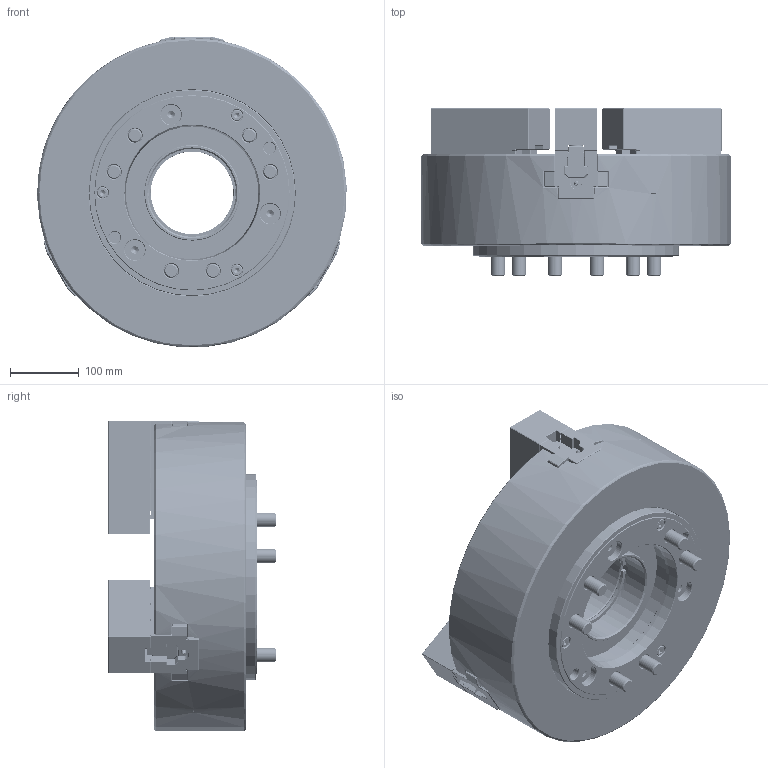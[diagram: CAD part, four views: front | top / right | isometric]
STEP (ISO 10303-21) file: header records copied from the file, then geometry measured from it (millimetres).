
FILE_DESCRIPTION(/* description */ (''),/* implementation_level */ '2;1');
FILE_NAME(/* name */ '\\Itserver\個人資料夾\柯玫如\8.網頁3D討論\1.中空油壓系列\1-1中空油壓夾頭\1.OP系列\OP-218\OP-218-A11.stp',/* time_stamp */ '2024-08-16T09:26:11+08:00',/* author */ ('034'),/* organization */ (''),/* preprocessor_version */ 'ST-DEVELOPER v16.13',/* originating_system */ 'Autodesk Inventor 2018',/* authorisation */ '');
FILE_SCHEMA (('AUTOMOTIVE_DESIGN { 1 0 10303 214 3 1 1 }'));
Products named in the file (1): OP-218-A11
Bounding box: 449.86 x 243.29 x 451.24 mm (x, y, z)
Volume: 20988368.1 mm3; surface area: 1133786.8 mm2
Topology: 1 solids, 57 shells, 9447 faces, 31540 edges, 20101 vertices
Faces by surface type: plane 5891, cylinder 2639, bspline 457, cone 363, torus 94, sphere 3
Full cylindrical faces by diameter (mm): 3 x24, 3.4 x6, 4 x18, 4.5 x6, 5.1 x6, 6 x9, 7 x6, 7.53 x6, 8.6 x5, 10 x9, 10.3 x9, 11 x9, 16 x3, 17 x5, 17.6 x6, 20 x18, 21 x24, 29.4 x3, 30 x14, 32 x12, 60 x4, 120.1 x1, 123.5 x1, 125.9 x1, 126.3 x1, 128 x1, 130.768 x2, 139 x1, 193 x1, 205.015 x1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
Entity records: 343134 total; most frequent: CARTESIAN_POINT 67883, ORIENTED_EDGE 61564, DIRECTION 54593, EDGE_CURVE 30782, LINE 22379, VECTOR 22379, VERTEX_POINT 19842, AXIS2_PLACEMENT_3D 16107
